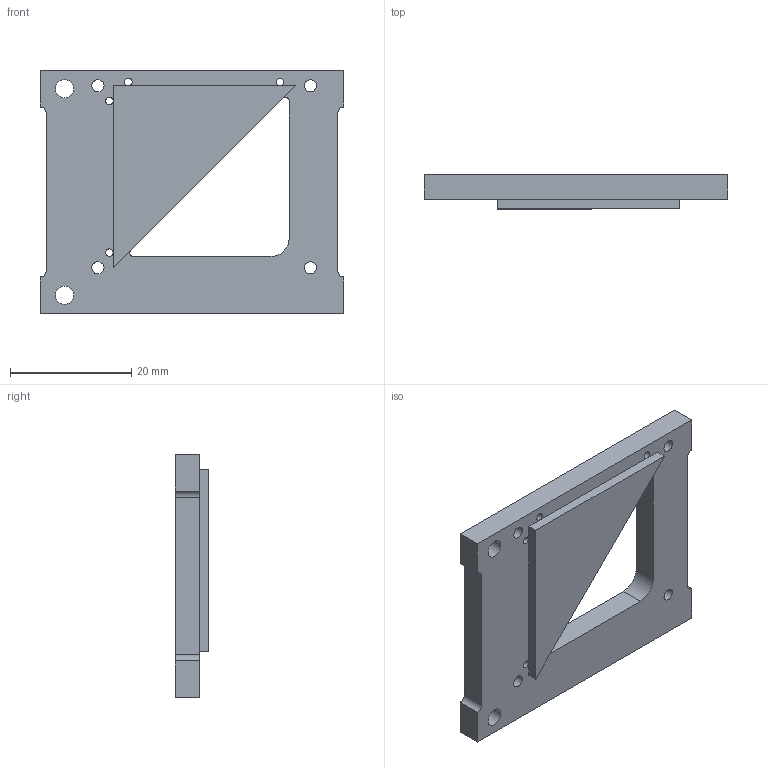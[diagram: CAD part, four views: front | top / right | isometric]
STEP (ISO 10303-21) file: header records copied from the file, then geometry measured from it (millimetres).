
FILE_DESCRIPTION(/* description */ ('','CAx-IF Rec.Pracs.---Representation and Presentation of Product Manufacturing Information (PMI)---4.0---2014-10-13'),/* implementation_level */ '2;1');
FILE_NAME(/* name */ 'a1_mini_dc_reflection_accessory_v1.step',/* time_stamp */ '2025-01-03T02:02:04+08:00',/* author */ (''),/* organization */ (''),/* preprocessor_version */ 'ST-DEVELOPER v20',/* originating_system */ 'Autodesk Translation Framework v13.20.0.188',/* authorisation */ '');
FILE_SCHEMA (('AP242_MANAGED_MODEL_BASED_3D_ENGINEERING_MIM_LF { 1 0 10303 442 1 1 4 }'));
Length unit declared in the file: millimetre
Products named in the file (1): a1_mini_dc_reflection_accessory
Bounding box: 50 x 5.6 x 40 mm (x, y, z)
Volume: 6912.1 mm3; surface area: 4580.9 mm2
Topology: 1 solids, 1 shells, 33 faces, 101 edges, 66 vertices
Faces by surface type: cylinder 17, plane 16
Full cylindrical faces by diameter (mm): 1.25 x4, 2 x4, 3 x2
Entity records: 1218 total; most frequent: DIRECTION 207, ORIENTED_EDGE 202, CARTESIAN_POINT 201, EDGE_CURVE 101, AXIS2_PLACEMENT_3D 72, VERTEX_POINT 66, LINE 63, VECTOR 63
